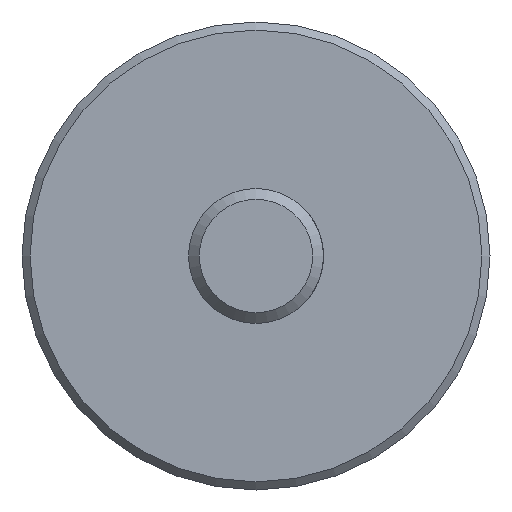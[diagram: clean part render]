
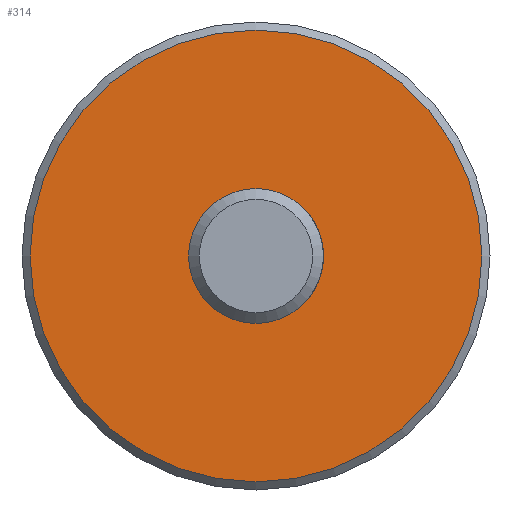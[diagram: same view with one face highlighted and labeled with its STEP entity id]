
A CAD part, front view. The second image highlights one B-rep face of the part: STEP entity #314.
In plain terms, the highlighted planar face has unit normal (0, -1, 0).
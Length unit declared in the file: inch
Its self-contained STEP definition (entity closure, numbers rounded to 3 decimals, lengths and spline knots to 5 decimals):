
#17 = DIRECTION ( 'NONE',  ( 0., 1., 0. ) ) ;
#59 = CARTESIAN_POINT ( 'NONE',  ( 0., 3.28, 0. ) ) ;
#69 = CARTESIAN_POINT ( 'NONE',  ( 0., 3.28, 0.375 ) ) ;
#102 = CARTESIAN_POINT ( 'NONE',  ( 0., 3.28, 0. ) ) ;
#122 = FACE_BOUND ( 'NONE', #502, .T. ) ;
#159 = ORIENTED_EDGE ( 'NONE', *, *, #430, .F. ) ;
#199 = FACE_OUTER_BOUND ( 'NONE', #465, .T. ) ;
#205 = PLANE ( 'NONE',  #207 ) ;
#207 = AXIS2_PLACEMENT_3D ( 'NONE', #434, #566, #553 ) ;
#240 = DIRECTION ( 'NONE',  ( 0., 0., 1. ) ) ;
#276 = DIRECTION ( 'NONE',  ( 0., 1., 0. ) ) ;
#314 = ADVANCED_FACE ( 'NONE', ( #199, #122 ), #205, .F. ) ;
#323 = DIRECTION ( 'NONE',  ( 0., 0., 1. ) ) ;
#377 = VERTEX_POINT ( 'NONE', #69 ) ;
#408 = AXIS2_PLACEMENT_3D ( 'NONE', #102, #17, #240 ) ;
#418 = CIRCLE ( 'NONE', #408, 0.375 ) ;
#430 = EDGE_CURVE ( 'NONE', #500, #500, #493, .T. ) ;
#434 = CARTESIAN_POINT ( 'NONE',  ( 0.375, 3.28, 0. ) ) ;
#459 = CARTESIAN_POINT ( 'NONE',  ( 0., 3.28, 1.255 ) ) ;
#465 = EDGE_LOOP ( 'NONE', ( #159 ) ) ;
#493 = CIRCLE ( 'NONE', #541, 1.255 ) ;
#494 = ORIENTED_EDGE ( 'NONE', *, *, #505, .T. ) ;
#500 = VERTEX_POINT ( 'NONE', #459 ) ;
#502 = EDGE_LOOP ( 'NONE', ( #494 ) ) ;
#505 = EDGE_CURVE ( 'NONE', #377, #377, #418, .T. ) ;
#541 = AXIS2_PLACEMENT_3D ( 'NONE', #59, #276, #323 ) ;
#553 = DIRECTION ( 'NONE',  ( 0., 0., 1. ) ) ;
#566 = DIRECTION ( 'NONE',  ( 0., 1., 0. ) ) ;
